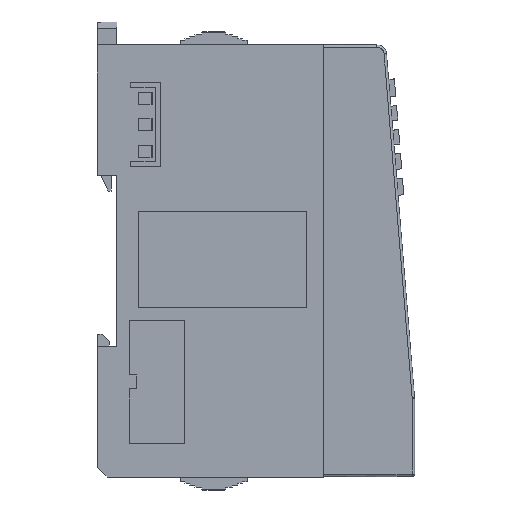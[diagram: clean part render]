
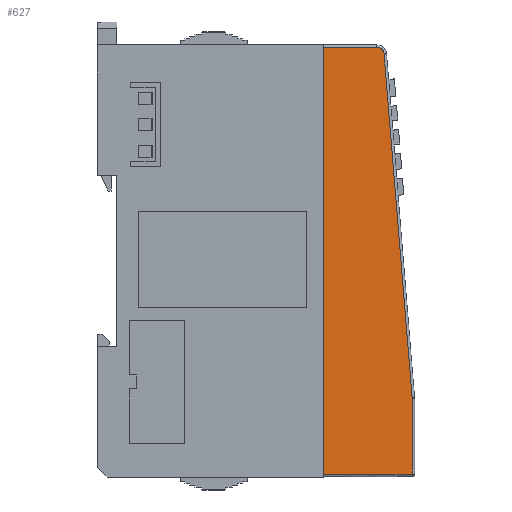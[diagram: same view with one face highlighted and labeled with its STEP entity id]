
A CAD part, front view. The second image highlights one B-rep face of the part: STEP entity #627.
In plain terms, the highlighted planar face has unit normal (0.005, -1, 0).
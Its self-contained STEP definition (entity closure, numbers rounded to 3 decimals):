
#151=B_SPLINE_CURVE_WITH_KNOTS('',3,(#14117,#14118,#14119,#14120,#14121,
#14122),.UNSPECIFIED.,.F.,.F.,(4,1,1,4),(0.,0.333,0.667,
1.),.UNSPECIFIED.);
#152=B_SPLINE_CURVE_WITH_KNOTS('',3,(#14126,#14127,#14128,#14129,#14130,
#14131,#14132,#14133,#14134,#14135,#14136,#14137),.UNSPECIFIED.,.F.,.F.,
(4,2,2,2,2,4),(0.,0.2,0.4,0.6,
0.8,1.),.UNSPECIFIED.);
#627=ADVANCED_FACE('',(#1567),#1125,.T.);
#1125=PLANE('',#9942);
#1567=FACE_OUTER_BOUND('',#2080,.T.);
#2080=EDGE_LOOP('',(#3694,#3695,#3696,#3697,#3698,#3699,#3700));
#3694=ORIENTED_EDGE('',*,*,#6591,.F.);
#3695=ORIENTED_EDGE('',*,*,#6592,.T.);
#3696=ORIENTED_EDGE('',*,*,#6593,.T.);
#3697=ORIENTED_EDGE('',*,*,#6594,.F.);
#3698=ORIENTED_EDGE('',*,*,#6595,.T.);
#3699=ORIENTED_EDGE('',*,*,#6596,.F.);
#3700=ORIENTED_EDGE('',*,*,#6571,.T.);
#5468=VERTEX_POINT('',#14069);
#5469=VERTEX_POINT('',#14071);
#5483=VERTEX_POINT('',#14112);
#5484=VERTEX_POINT('',#14116);
#5485=VERTEX_POINT('',#14123);
#5486=VERTEX_POINT('',#14125);
#5487=VERTEX_POINT('',#14138);
#6571=EDGE_CURVE('',#5469,#5468,#7887,.T.);
#6591=EDGE_CURVE('',#5483,#5468,#7901,.T.);
#6592=EDGE_CURVE('',#5483,#5484,#7902,.T.);
#6593=EDGE_CURVE('',#5484,#5485,#151,.T.);
#6594=EDGE_CURVE('',#5486,#5485,#7903,.T.);
#6595=EDGE_CURVE('',#5486,#5487,#152,.T.);
#6596=EDGE_CURVE('',#5469,#5487,#7904,.T.);
#7887=LINE('',#14070,#9096);
#7901=LINE('',#14113,#9110);
#7902=LINE('',#14115,#9111);
#7903=LINE('',#14124,#9112);
#7904=LINE('',#14139,#9113);
#9096=VECTOR('',#11442,1.);
#9110=VECTOR('',#11476,1.);
#9111=VECTOR('',#11479,1.);
#9112=VECTOR('',#11480,1.);
#9113=VECTOR('',#11481,1.);
#9942=AXIS2_PLACEMENT_3D('',#14140,#11482,#11483);
#11442=DIRECTION('',(0.,0.,-1.));
#11476=DIRECTION('',(-1.,-0.005,-0.005));
#11479=DIRECTION('',(0.,0.,1.));
#11480=DIRECTION('',(0.081,0.,-0.997));
#11481=DIRECTION('',(1.,0.005,-0.005));
#11482=DIRECTION('',(0.005,-1.,0.));
#11483=DIRECTION('',(0.,0.,1.));
#14069=CARTESIAN_POINT('',(-247.517,-116.239,189.22));
#14070=CARTESIAN_POINT('',(-247.517,-116.239,278.22));
#14071=CARTESIAN_POINT('',(-247.517,-116.239,278.22));
#14112=CARTESIAN_POINT('',(-229.015,-116.142,189.317));
#14113=CARTESIAN_POINT('',(-229.015,-116.142,189.317));
#14115=CARTESIAN_POINT('',(-229.015,-116.142,189.317));
#14116=CARTESIAN_POINT('',(-229.015,-116.142,205.139));
#14117=CARTESIAN_POINT('',(-229.015,-116.142,205.139));
#14118=CARTESIAN_POINT('',(-229.015,-116.142,205.152));
#14119=CARTESIAN_POINT('',(-229.015,-116.142,205.179));
#14120=CARTESIAN_POINT('',(-229.017,-116.142,205.22));
#14121=CARTESIAN_POINT('',(-229.019,-116.142,205.247));
#14122=CARTESIAN_POINT('',(-229.02,-116.142,205.261));
#14123=CARTESIAN_POINT('',(-229.02,-116.142,205.261));
#14124=CARTESIAN_POINT('',(-234.859,-116.173,276.784));
#14125=CARTESIAN_POINT('',(-234.859,-116.173,276.784));
#14126=CARTESIAN_POINT('',(-234.859,-116.173,276.784));
#14127=CARTESIAN_POINT('',(-234.872,-116.173,276.936));
#14128=CARTESIAN_POINT('',(-234.905,-116.173,277.079));
#14129=CARTESIAN_POINT('',(-235.014,-116.174,277.353));
#14130=CARTESIAN_POINT('',(-235.09,-116.174,277.483));
#14131=CARTESIAN_POINT('',(-235.275,-116.175,277.715));
#14132=CARTESIAN_POINT('',(-235.385,-116.176,277.817));
#14133=CARTESIAN_POINT('',(-235.631,-116.177,277.984));
#14134=CARTESIAN_POINT('',(-235.767,-116.178,278.05));
#14135=CARTESIAN_POINT('',(-236.048,-116.179,278.138));
#14136=CARTESIAN_POINT('',(-236.193,-116.18,278.16));
#14137=CARTESIAN_POINT('',(-236.346,-116.181,278.162));
#14138=CARTESIAN_POINT('',(-236.346,-116.181,278.162));
#14139=CARTESIAN_POINT('',(-247.517,-116.239,278.22));
#14140=CARTESIAN_POINT('',(-247.517,-116.239,279.843));
